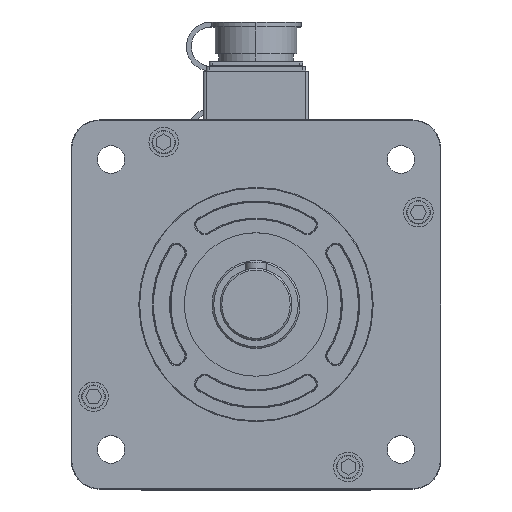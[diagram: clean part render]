
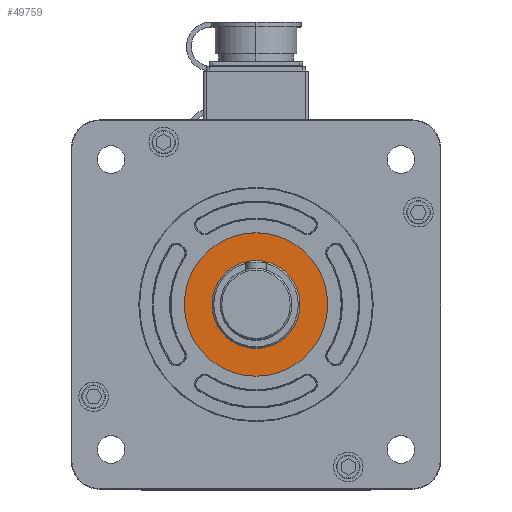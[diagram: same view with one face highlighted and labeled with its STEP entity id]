
A CAD part, top view. The second image highlights one B-rep face of the part: STEP entity #49759.
In plain terms, the highlighted planar face has unit normal (0, 0, 1).
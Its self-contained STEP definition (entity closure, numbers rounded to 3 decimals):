
#1548 = EDGE_CURVE ( 'NONE', #87400, #21074, #27251, .T. ) ;
#2699 = EDGE_LOOP ( 'NONE', ( #67763, #77228 ) ) ;
#9403 = CIRCLE ( 'NONE', #51545, 35. ) ;
#16651 = CARTESIAN_POINT ( 'NONE',  ( 21.45, 0., 0. ) ) ;
#17730 = DIRECTION ( 'NONE',  ( 0., 0., -1. ) ) ;
#19673 = AXIS2_PLACEMENT_3D ( 'NONE', #81279, #89598, #74133 ) ;
#21074 = VERTEX_POINT ( 'NONE', #72096 ) ;
#23243 = DIRECTION ( 'NONE',  ( 0., 0., -1. ) ) ;
#23276 = FACE_OUTER_BOUND ( 'NONE', #30333, .T. ) ;
#24779 = EDGE_CURVE ( 'NONE', #21074, #87400, #57677, .T. ) ;
#27251 = CIRCLE ( 'NONE', #41457, 21.45 ) ;
#27640 = AXIS2_PLACEMENT_3D ( 'NONE', #59599, #17730, #81025 ) ;
#27913 = CARTESIAN_POINT ( 'NONE',  ( -35., 0., 0. ) ) ;
#28626 = VERTEX_POINT ( 'NONE', #27913 ) ;
#30333 = EDGE_LOOP ( 'NONE', ( #32242, #48711 ) ) ;
#32242 = ORIENTED_EDGE ( 'NONE', *, *, #63724, .F. ) ;
#38263 = EDGE_CURVE ( 'NONE', #28626, #78566, #65036, .T. ) ;
#41457 = AXIS2_PLACEMENT_3D ( 'NONE', #66945, #45290, #59836 ) ;
#45290 = DIRECTION ( 'NONE',  ( 0., 0., 1. ) ) ;
#48711 = ORIENTED_EDGE ( 'NONE', *, *, #38263, .F. ) ;
#49759 = ADVANCED_FACE ( 'NONE', ( #23276, #53273 ), #60787, .T. ) ;
#51545 = AXIS2_PLACEMENT_3D ( 'NONE', #52092, #23243, #66627 ) ;
#52092 = CARTESIAN_POINT ( 'NONE',  ( 0., 0., 0. ) ) ;
#53064 = CARTESIAN_POINT ( 'NONE',  ( 0., 0., 0. ) ) ;
#53273 = FACE_BOUND ( 'NONE', #2699, .T. ) ;
#57677 = CIRCLE ( 'NONE', #19673, 21.45 ) ;
#59599 = CARTESIAN_POINT ( 'NONE',  ( 0., 0., 0. ) ) ;
#59836 = DIRECTION ( 'NONE',  ( 1., 0., 0. ) ) ;
#60787 = PLANE ( 'NONE',  #76399 ) ;
#63724 = EDGE_CURVE ( 'NONE', #78566, #28626, #9403, .T. ) ;
#65036 = CIRCLE ( 'NONE', #27640, 35. ) ;
#66627 = DIRECTION ( 'NONE',  ( 1., 0., 0. ) ) ;
#66945 = CARTESIAN_POINT ( 'NONE',  ( 0., 0., 0. ) ) ;
#67763 = ORIENTED_EDGE ( 'NONE', *, *, #1548, .F. ) ;
#72096 = CARTESIAN_POINT ( 'NONE',  ( -21.45, 0., 0. ) ) ;
#74133 = DIRECTION ( 'NONE',  ( 1., 0., 0. ) ) ;
#76399 = AXIS2_PLACEMENT_3D ( 'NONE', #53064, #81889, #81293 ) ;
#77228 = ORIENTED_EDGE ( 'NONE', *, *, #24779, .F. ) ;
#78286 = CARTESIAN_POINT ( 'NONE',  ( 35., 0., 0. ) ) ;
#78566 = VERTEX_POINT ( 'NONE', #78286 ) ;
#81025 = DIRECTION ( 'NONE',  ( 1., 0., 0. ) ) ;
#81279 = CARTESIAN_POINT ( 'NONE',  ( 0., 0., 0. ) ) ;
#81293 = DIRECTION ( 'NONE',  ( 1., 0., 0. ) ) ;
#81889 = DIRECTION ( 'NONE',  ( 0., 0., 1. ) ) ;
#87400 = VERTEX_POINT ( 'NONE', #16651 ) ;
#89598 = DIRECTION ( 'NONE',  ( 0., 0., 1. ) ) ;
